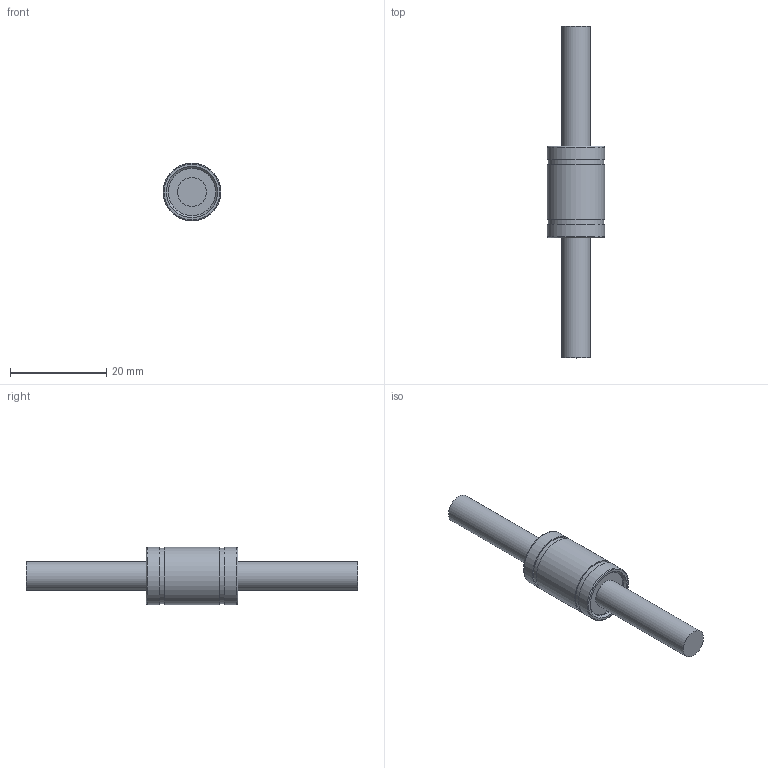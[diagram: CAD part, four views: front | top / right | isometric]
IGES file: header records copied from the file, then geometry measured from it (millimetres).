
Global section: file name: No Iges File Name specified; native system: Autodesk Inventor 2012; preprocessor: AutoDesk Inventor Iges Exporter R2012; author: user2; date: 20130206.095907; units: millimetre
Bounding box: 12 x 69 x 12 mm (x, y, z)
Volume: 3469.4 mm3; surface area: 1967.5 mm2
Topology: 1 solids, 1 shells, 23 faces, 37 edges, 24 vertices
Faces by surface type: plane 10, cylinder 7, revolution 4, torus 2
Full cylindrical faces by diameter (mm): 6 x2, 11.5 x2, 12 x3
